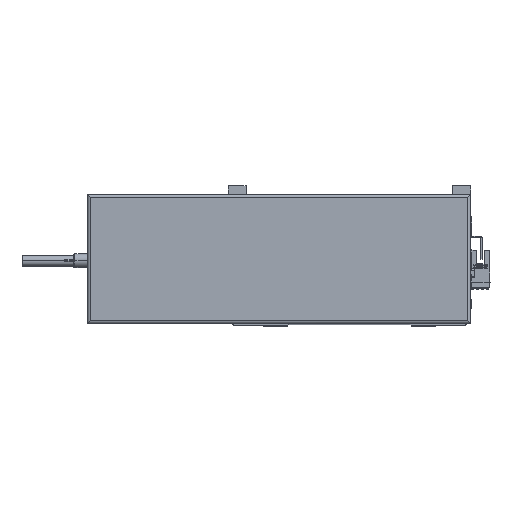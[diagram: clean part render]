
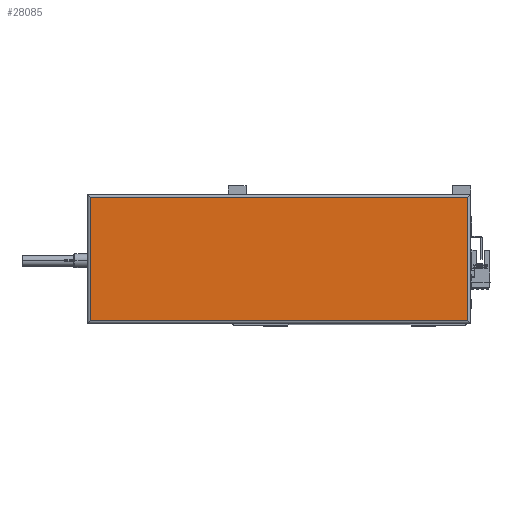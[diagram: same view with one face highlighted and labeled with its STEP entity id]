
A CAD part, top view. The second image highlights one B-rep face of the part: STEP entity #28085.
In plain terms, the highlighted planar face has unit normal (0, 0, 1).
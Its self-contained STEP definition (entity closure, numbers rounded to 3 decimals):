
#34 = ORIENTED_EDGE ( 'NONE', *, *, #33680, .T. ) ;
#2652 = VERTEX_POINT ( 'NONE', #45586 ) ;
#4205 = DIRECTION ( 'NONE',  ( 0., 0., 1. ) ) ;
#4359 = CARTESIAN_POINT ( 'NONE',  ( 2., 2., 44.8 ) ) ;
#4539 = PLANE ( 'NONE',  #14315 ) ;
#5614 = VERTEX_POINT ( 'NONE', #4359 ) ;
#7627 = VERTEX_POINT ( 'NONE', #19295 ) ;
#8644 = CARTESIAN_POINT ( 'NONE',  ( 2., 88., 44.8 ) ) ;
#9730 = FACE_OUTER_BOUND ( 'NONE', #27815, .T. ) ;
#13193 = ORIENTED_EDGE ( 'NONE', *, *, #38019, .T. ) ;
#14092 = ORIENTED_EDGE ( 'NONE', *, *, #42859, .T. ) ;
#14315 = AXIS2_PLACEMENT_3D ( 'NONE', #35114, #4205, #46643 ) ;
#15419 = CARTESIAN_POINT ( 'NONE',  ( 265., 90., 44.8 ) ) ;
#15735 = DIRECTION ( 'NONE',  ( 0., 1., 0. ) ) ;
#17130 = DIRECTION ( 'NONE',  ( 0., -1., 0. ) ) ;
#19295 = CARTESIAN_POINT ( 'NONE',  ( 265., 2., 44.8 ) ) ;
#21556 = VECTOR ( 'NONE', #15735, 1000. ) ;
#23608 = VERTEX_POINT ( 'NONE', #8644 ) ;
#26279 = CARTESIAN_POINT ( 'NONE',  ( 267., 2., 44.8 ) ) ;
#27815 = EDGE_LOOP ( 'NONE', ( #13193, #34, #14092, #30112 ) ) ;
#28085 = ADVANCED_FACE ( 'NONE', ( #9730 ), #4539, .T. ) ;
#29418 = LINE ( 'NONE', #26279, #46109 ) ;
#29988 = LINE ( 'NONE', #30722, #43716 ) ;
#30112 = ORIENTED_EDGE ( 'NONE', *, *, #43502, .T. ) ;
#30722 = CARTESIAN_POINT ( 'NONE',  ( 2., 0., 44.8 ) ) ;
#31184 = VECTOR ( 'NONE', #34675, 1000. ) ;
#33680 = EDGE_CURVE ( 'NONE', #2652, #23608, #47341, .T. ) ;
#34675 = DIRECTION ( 'NONE',  ( -1., 0., 0. ) ) ;
#35114 = CARTESIAN_POINT ( 'NONE',  ( 133.5, 45., 44.8 ) ) ;
#35284 = LINE ( 'NONE', #15419, #21556 ) ;
#38019 = EDGE_CURVE ( 'NONE', #7627, #2652, #35284, .T. ) ;
#42525 = CARTESIAN_POINT ( 'NONE',  ( 0., 88., 44.8 ) ) ;
#42859 = EDGE_CURVE ( 'NONE', #23608, #5614, #29988, .T. ) ;
#43502 = EDGE_CURVE ( 'NONE', #5614, #7627, #29418, .T. ) ;
#43716 = VECTOR ( 'NONE', #17130, 1000. ) ;
#45122 = DIRECTION ( 'NONE',  ( 1., 0., 0. ) ) ;
#45586 = CARTESIAN_POINT ( 'NONE',  ( 265., 88., 44.8 ) ) ;
#46109 = VECTOR ( 'NONE', #45122, 1000. ) ;
#46643 = DIRECTION ( 'NONE',  ( 1., 0., 0. ) ) ;
#47341 = LINE ( 'NONE', #42525, #31184 ) ;
